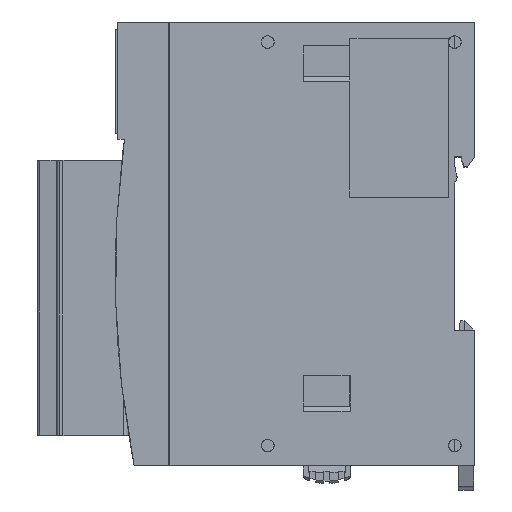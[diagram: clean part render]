
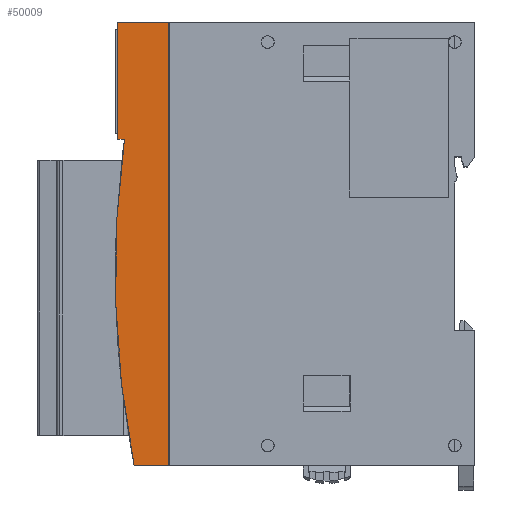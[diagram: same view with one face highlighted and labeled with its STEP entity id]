
A CAD part, top view. The second image highlights one B-rep face of the part: STEP entity #50009.
In plain terms, the highlighted planar face has unit normal (0, 0, 1).
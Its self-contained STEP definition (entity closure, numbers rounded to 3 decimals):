
#943 = CARTESIAN_POINT ( 'NONE',  ( -37.5, 21.3, 23.6 ) ) ;
#3575 = EDGE_CURVE ( 'NONE', #17276, #82887, #21174, .T. ) ;
#4006 = VECTOR ( 'NONE', #34571, 1000. ) ;
#4412 = ORIENTED_EDGE ( 'NONE', *, *, #3575, .T. ) ;
#5615 = EDGE_CURVE ( 'NONE', #14709, #21367, #8576, .T. ) ;
#7468 = DIRECTION ( 'NONE',  ( 0., 0., 1. ) ) ;
#8576 = LINE ( 'NONE', #26569, #26710 ) ;
#8798 = LINE ( 'NONE', #88106, #29384 ) ;
#11877 = CARTESIAN_POINT ( 'NONE',  ( -32.583, -45., 23.6 ) ) ;
#14709 = VERTEX_POINT ( 'NONE', #78815 ) ;
#17276 = VERTEX_POINT ( 'NONE', #68298 ) ;
#19226 = EDGE_CURVE ( 'NONE', #71477, #14709, #40716, .T. ) ;
#20899 = DIRECTION ( 'NONE',  ( 0., 0., 1. ) ) ;
#21174 = LINE ( 'NONE', #29381, #59766 ) ;
#21367 = VERTEX_POINT ( 'NONE', #62661 ) ;
#22991 = AXIS2_PLACEMENT_3D ( 'NONE', #53749, #7468, #61493 ) ;
#24497 = FACE_OUTER_BOUND ( 'NONE', #63980, .T. ) ;
#26569 = CARTESIAN_POINT ( 'NONE',  ( -27.1, 0., 23.6 ) ) ;
#26710 = VECTOR ( 'NONE', #56902, 1000. ) ;
#27828 = AXIS2_PLACEMENT_3D ( 'NONE', #67134, #20899, #74915 ) ;
#28313 = PLANE ( 'NONE',  #27828 ) ;
#29381 = CARTESIAN_POINT ( 'NONE',  ( -37.5, 0., 23.6 ) ) ;
#29384 = VECTOR ( 'NONE', #80331, 1000. ) ;
#30111 = VERTEX_POINT ( 'NONE', #34637 ) ;
#32213 = ORIENTED_EDGE ( 'NONE', *, *, #52181, .T. ) ;
#32826 = ORIENTED_EDGE ( 'NONE', *, *, #5615, .T. ) ;
#34571 = DIRECTION ( 'NONE',  ( -1., 0., 0. ) ) ;
#34637 = CARTESIAN_POINT ( 'NONE',  ( -36.128, 21.3, 23.6 ) ) ;
#40716 = LINE ( 'NONE', #11877, #79306 ) ;
#41118 = CARTESIAN_POINT ( 'NONE',  ( -34.161, -45., 23.6 ) ) ;
#43338 = ORIENTED_EDGE ( 'NONE', *, *, #19226, .T. ) ;
#50009 = ADVANCED_FACE ( 'NONE', ( #24497 ), #28313, .T. ) ;
#52181 = EDGE_CURVE ( 'NONE', #21367, #17276, #86131, .T. ) ;
#53749 = CARTESIAN_POINT ( 'NONE',  ( 162., -6., 23.6 ) ) ;
#55503 = EDGE_CURVE ( 'NONE', #30111, #71477, #75102, .T. ) ;
#56902 = DIRECTION ( 'NONE',  ( 0., 1., 0. ) ) ;
#58087 = DIRECTION ( 'NONE',  ( 1., 0., 0. ) ) ;
#59061 = EDGE_CURVE ( 'NONE', #82887, #30111, #8798, .T. ) ;
#59766 = VECTOR ( 'NONE', #75616, 1000. ) ;
#61493 = DIRECTION ( 'NONE',  ( 1., 0., 0. ) ) ;
#62661 = CARTESIAN_POINT ( 'NONE',  ( -27.1, 45., 23.6 ) ) ;
#63980 = EDGE_LOOP ( 'NONE', ( #87312, #43338, #32826, #32213, #4412, #88037 ) ) ;
#67134 = CARTESIAN_POINT ( 'NONE',  ( -38.065, -45., 23.6 ) ) ;
#68298 = CARTESIAN_POINT ( 'NONE',  ( -37.5, 45., 23.6 ) ) ;
#71477 = VERTEX_POINT ( 'NONE', #41118 ) ;
#74915 = DIRECTION ( 'NONE',  ( 1., 0., 0. ) ) ;
#75102 = CIRCLE ( 'NONE', #22991, 200. ) ;
#75616 = DIRECTION ( 'NONE',  ( 0., -1., 0. ) ) ;
#78815 = CARTESIAN_POINT ( 'NONE',  ( -27.1, -45., 23.6 ) ) ;
#79306 = VECTOR ( 'NONE', #58087, 1000. ) ;
#80331 = DIRECTION ( 'NONE',  ( 1., 0., 0. ) ) ;
#82887 = VERTEX_POINT ( 'NONE', #943 ) ;
#86131 = LINE ( 'NONE', #88497, #4006 ) ;
#87312 = ORIENTED_EDGE ( 'NONE', *, *, #55503, .T. ) ;
#88037 = ORIENTED_EDGE ( 'NONE', *, *, #59061, .T. ) ;
#88106 = CARTESIAN_POINT ( 'NONE',  ( -32.583, 21.3, 23.6 ) ) ;
#88497 = CARTESIAN_POINT ( 'NONE',  ( -32.583, 45., 23.6 ) ) ;
